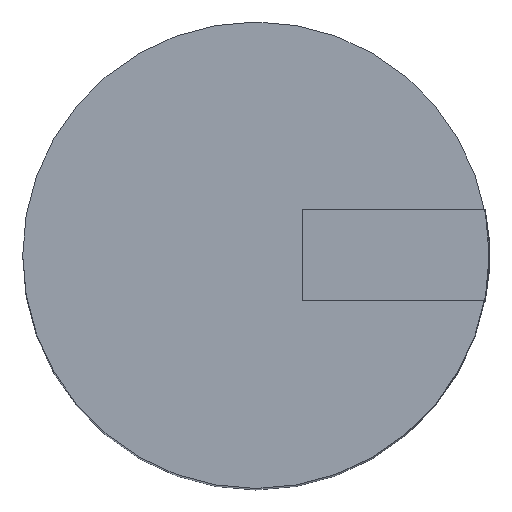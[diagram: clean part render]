
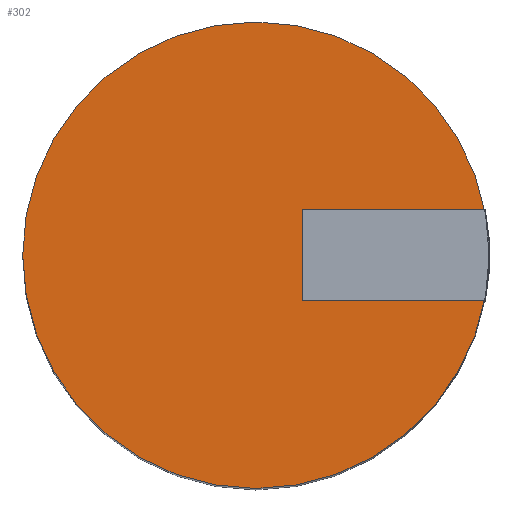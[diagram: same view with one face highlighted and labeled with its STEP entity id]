
A CAD part, top view. The second image highlights one B-rep face of the part: STEP entity #302.
In plain terms, the highlighted planar face has unit normal (0, 0, 1).
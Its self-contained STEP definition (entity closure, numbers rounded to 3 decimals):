
#302=ADVANCED_FACE($,(#308),#304,.T.);
#304=PLANE($,#329);
#308=FACE_OUTER_BOUND($,#312,.T.);
#312=EDGE_LOOP($,(#322));
#313=CIRCLE($,#326,12.497);
#315=VERTEX_POINT('',#344);
#317=EDGE_CURVE($,#315,#315,#313,.T.);
#322=ORIENTED_EDGE($,*,*,#317,.T.);
#326=AXIS2_PLACEMENT_3D($,#345,#334,#335);
#329=AXIS2_PLACEMENT_3D($,#349,#340,#341);
#334=DIRECTION('',(0.,0.,1.));
#335=DIRECTION('',(1.,0.,0.));
#340=DIRECTION('',(0.,0.,1.));
#341=DIRECTION('',(0.,1.,0.));
#344=CARTESIAN_POINT('',(-7.497,0.0,46.99));
#345=CARTESIAN_POINT('',(5.0,0.0,46.99));
#349=CARTESIAN_POINT('',(5.0,0.0,46.99));
